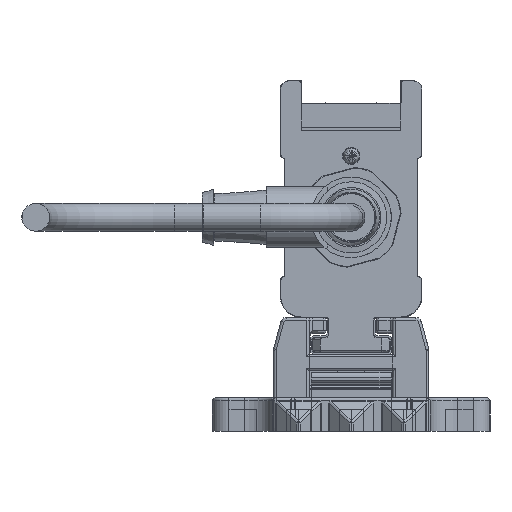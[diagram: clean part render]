
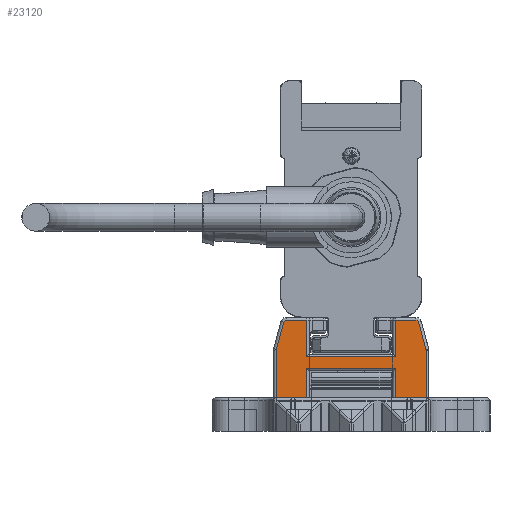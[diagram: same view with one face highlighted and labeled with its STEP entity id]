
A CAD part, left-side view. The second image highlights one B-rep face of the part: STEP entity #23120.
In plain terms, the highlighted planar face has unit normal (-1, 0, 0).
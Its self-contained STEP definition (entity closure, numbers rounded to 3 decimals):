
#23120=ADVANCED_FACE('', (#23130), #23140, .T.);
#117610=AXIS2_PLACEMENT_3D('Ax2Pl3d', #117620, #117630, #117640);
#117850=AXIS2_PLACEMENT_3D('Ax2Pl3d', #117860, #117870, #117880);
#122730=AXIS2_PLACEMENT_3D('Ax2Pl3d', #122740, #122750, #122760);
#127810=AXIS2_PLACEMENT_3D('Ax2Pl3d', #127820, #127830, #127840);
#137490=AXIS2_PLACEMENT_3D('Ax2Pl3d', #137500, #137510, #137520);
#453240=CARTESIAN_POINT('', (-747.669,-1926.345,
331.37));
#117620=CARTESIAN_POINT('HicPkt', (-747.669,-1925.379,
331.111));
#453250=CARTESIAN_POINT('', (-747.669,-1926.379,
331.111));
#453260=CARTESIAN_POINT('', (-747.669,-1925.037,336.255)
);
#453280=CARTESIAN_POINT('', (-747.669,-1925.037,336.255)
);
#453310=CARTESIAN_POINT('', (-747.669,-1924.554,
336.625));
#117860=CARTESIAN_POINT('HicPkt', (-747.669,-1924.554,
336.125));
#453530=CARTESIAN_POINT('', (-747.669,-1926.379,
322.625));
#453540=CARTESIAN_POINT('', (-747.669,-1920.881,
322.625));
#453550=CARTESIAN_POINT('', (-747.669,-1920.881,
322.625));
#453630=CARTESIAN_POINT('', (-747.669,-1904.881,
322.625));
#453640=CARTESIAN_POINT('', (-747.669,-1899.383,
322.625));
#453650=CARTESIAN_POINT('', (-747.669,-1899.383,
322.625));
#122740=CARTESIAN_POINT('HicPkt', (-747.669,-1901.209,
336.125));
#456120=CARTESIAN_POINT('', (-747.669,-1900.726,
336.255));
#456130=CARTESIAN_POINT('', (-747.669,-1901.209,
336.625));
#456140=CARTESIAN_POINT('', (-747.669,-1920.881,
330.025));
#456150=CARTESIAN_POINT('', (-747.669,-1904.881,
330.025));
#456160=CARTESIAN_POINT('', (-747.669,-1920.881,
330.025));
#456320=CARTESIAN_POINT('', (-747.669,-1920.881,
328.005));
#456330=CARTESIAN_POINT('', (-747.669,-1904.881,
328.005));
#456340=CARTESIAN_POINT('', (-747.669,-1904.881,
328.005));
#456350=CARTESIAN_POINT('', (-747.669,-1920.881,
328.005));
#456370=CARTESIAN_POINT('', (-747.669,-1904.881,
322.625));
#456380=CARTESIAN_POINT('', (-747.669,-1904.881,
330.025));
#456390=CARTESIAN_POINT('', (-747.669,-1904.881,
336.625));
#457240=CARTESIAN_POINT('', (-747.669,-1904.881,
336.625));
#457250=CARTESIAN_POINT('', (-747.669,-1900.726,
336.255));
#457260=CARTESIAN_POINT('', (-747.669,-1899.417,
331.37));
#457450=CARTESIAN_POINT('', (-747.669,-1899.383,
331.111));
#457460=CARTESIAN_POINT('', (-747.669,-1899.383,
331.111));
#127820=CARTESIAN_POINT('HicPkt', (-747.669,-1900.383,
331.111));
#458270=CARTESIAN_POINT('', (-747.669,-1926.379,
331.111));
#137500=CARTESIAN_POINT('HicPkt', (-747.669,-1924.554,
336.625));
#460070=CARTESIAN_POINT('', (-747.669,-1920.881,
336.625));
#460080=CARTESIAN_POINT('', (-747.669,-1920.881,
336.625));
#460090=CARTESIAN_POINT('', (-747.669,-1920.881,
336.625));
#522140=CIRCLE('Circle', #117610, 1.);
#522180=CIRCLE('Circle', #117850, 0.5);
#522760=CIRCLE('Circle', #122730, 0.5);
#523290=CIRCLE('Circle', #127810, 1.);
#117630=DIRECTION('Axis', (-1.,0.,
0.));
#117640=DIRECTION('RefDirection', (0.,
0.,-1.));
#730180=DIRECTION('', (0.,0.259,
0.966));
#117870=DIRECTION('Axis', (-1.,0.,
0.));
#117880=DIRECTION('RefDirection', (0.,
0.,-1.));
#730290=DIRECTION('', (0.,1.,0.));
#730330=DIRECTION('', (0.,1.,0.));
#122750=DIRECTION('Axis', (1.,0.,
0.));
#122760=DIRECTION('RefDirection', (0.,
0.,-1.));
#731520=DIRECTION('', (0.,-1.,0.));
#731620=DIRECTION('', (0.,1.,0.));
#731630=DIRECTION('', (0.,0.,1.));
#731650=DIRECTION('', (0.,0.,-1.));
#731660=DIRECTION('', (0.,0.,-1.));
#732090=DIRECTION('', (0.,-1.,0.));
#732100=DIRECTION('', (0.,-0.259,0.966));
#732190=DIRECTION('', (0.,0.,1.));
#127830=DIRECTION('Axis', (1.,0.,
0.));
#127840=DIRECTION('RefDirection', (0.,
0.,-1.));
#732560=DIRECTION('', (0.,0.,1.));
#137510=DIRECTION('Axis', (-1.,0.,
0.));
#137520=DIRECTION('RefDirection', (0.,
0.,-1.));
#733400=DIRECTION('', (0.,1.,0.));
#733410=DIRECTION('', (0.,0.,1.));
#785930=EDGE_CURVE('', #785940, #785920, #522140, .T.);
#785990=EDGE_CURVE('', #785920, #785970, #786000, .T.);
#786060=EDGE_CURVE('', #785970, #786050, #522180, .T.);
#786510=EDGE_CURVE('', #786500, #786520, #786530, .T.);
#786670=EDGE_CURVE('', #786660, #786680, #786690, .T.);
#791030=EDGE_CURVE('', #791040, #791050, #522760, .T.);
#791080=EDGE_CURVE('', #791090, #791100, #791110, .T.);
#791450=EDGE_CURVE('', #791430, #791460, #791470, .T.);
#791500=EDGE_CURVE('', #786520, #791430, #791510, .T.);
#791540=EDGE_CURVE('', #791460, #786660, #791550, .T.);
#791560=EDGE_CURVE('', #791570, #791090, #791580, .T.);
#793400=EDGE_CURVE('', #791050, #791570, #793410, .T.);
#793470=EDGE_CURVE('', #793480, #791040, #793490, .T.);
#793910=EDGE_CURVE('', #786680, #793920, #793930, .T.);
#793950=EDGE_CURVE('', #793920, #793480, #523290, .T.);
#795660=EDGE_CURVE('', #786500, #785940, #795670, .T.);
#799470=EDGE_CURVE('', #786050, #799480, #799490, .T.);
#799500=EDGE_CURVE('', #791100, #799480, #799510, .T.);
#950330=EDGE_LOOP('Edge_loop', (#950340,#950350,#950360,#950370,#950380,
#950390,#950400,#950410,#950420,#950430,#950440,#950450,#950460,#950470,
#950480,#950490,#950500,#950510));
#23130=FACE_OUTER_BOUND('Face_outer_bound', #950330, .T.);
#786000=LINE('Line', #453280, #1078570);
#786530=LINE('Line', #453540, #1078680);
#786690=LINE('Line', #453640, #1078720);
#791110=LINE('Line', #456140, #1079910);
#791470=LINE('Line', #456330, #1080010);
#791510=LINE('Line', #456350, #1080020);
#791550=LINE('Line', #456370, #1080040);
#791580=LINE('Line', #456380, #1080050);
#793410=LINE('Line', #457240, #1080480);
#793490=LINE('Line', #457250, #1080490);
#793930=LINE('Line', #457450, #1080580);
#795670=LINE('Line', #458270, #1080950);
#799490=LINE('Line', #460070, #1081790);
#799510=LINE('Line', #460090, #1081800);
#950340=ORIENTED_EDGE('', *, *, #799470, .T.);
#950350=ORIENTED_EDGE('', *, *, #799500, .F.);
#950360=ORIENTED_EDGE('', *, *, #791080, .F.);
#950370=ORIENTED_EDGE('', *, *, #791560, .F.);
#950380=ORIENTED_EDGE('', *, *, #793400, .F.);
#950390=ORIENTED_EDGE('', *, *, #791030, .F.);
#950400=ORIENTED_EDGE('', *, *, #793470, .F.);
#950410=ORIENTED_EDGE('', *, *, #793950, .F.);
#950420=ORIENTED_EDGE('', *, *, #793910, .F.);
#950430=ORIENTED_EDGE('', *, *, #786670, .F.);
#950440=ORIENTED_EDGE('', *, *, #791540, .F.);
#950450=ORIENTED_EDGE('', *, *, #791450, .F.);
#950460=ORIENTED_EDGE('', *, *, #791500, .F.);
#950470=ORIENTED_EDGE('', *, *, #786510, .F.);
#950480=ORIENTED_EDGE('', *, *, #795660, .T.);
#950490=ORIENTED_EDGE('', *, *, #785930, .T.);
#950500=ORIENTED_EDGE('', *, *, #785990, .T.);
#950510=ORIENTED_EDGE('', *, *, #786060, .T.);
#23140=PLANE('Plane', #137490);
#1078570=VECTOR('', #730180, 5.057);
#1078680=VECTOR('', #730290, 5.498);
#1078720=VECTOR('', #730330, 5.498);
#1079910=VECTOR('', #731520, 16.);
#1080010=VECTOR('', #731620, 16.);
#1080020=VECTOR('', #731630, 5.38);
#1080040=VECTOR('', #731650, 5.38);
#1080050=VECTOR('', #731660, 6.6);
#1080480=VECTOR('', #732090, 3.672);
#1080490=VECTOR('', #732100, 5.057);
#1080580=VECTOR('', #732190, 8.486);
#1080950=VECTOR('', #732560, 8.486);
#1081790=VECTOR('', #733400, 3.672);
#1081800=VECTOR('', #733410, 6.6);
#785920=VERTEX_POINT('', #453240);
#785940=VERTEX_POINT('', #453250);
#785970=VERTEX_POINT('', #453260);
#786050=VERTEX_POINT('', #453310);
#786500=VERTEX_POINT('', #453530);
#786520=VERTEX_POINT('', #453550);
#786660=VERTEX_POINT('', #453630);
#786680=VERTEX_POINT('', #453650);
#791040=VERTEX_POINT('', #456120);
#791050=VERTEX_POINT('', #456130);
#791090=VERTEX_POINT('', #456150);
#791100=VERTEX_POINT('', #456160);
#791430=VERTEX_POINT('', #456320);
#791460=VERTEX_POINT('', #456340);
#791570=VERTEX_POINT('', #456390);
#793480=VERTEX_POINT('', #457260);
#793920=VERTEX_POINT('', #457460);
#799480=VERTEX_POINT('', #460080);
